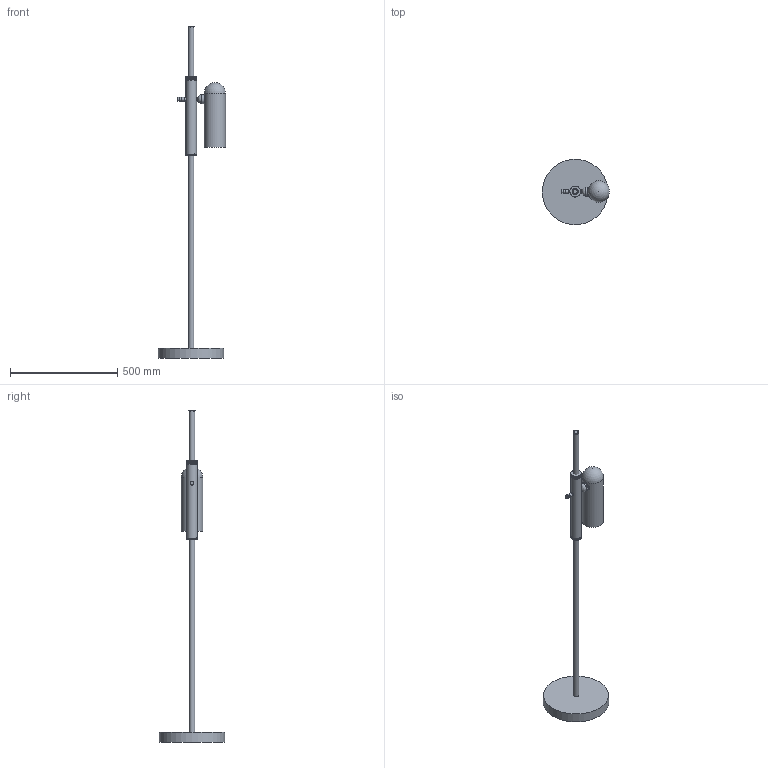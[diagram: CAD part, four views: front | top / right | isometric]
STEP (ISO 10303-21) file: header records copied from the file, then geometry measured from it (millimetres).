
FILE_DESCRIPTION(/* description */ (''),/* implementation_level */ '2;1');
FILE_NAME(/* name */ 'T:\B191 Odyssey Single Floor Lamp\Pliki bryłowe handlowe\B191 Odyssey 1 3D files_na stronę\B191 Odyssey 1.stp',/* time_stamp */ '2022-02-02T15:05:18+01:00',/* author */ ('Mariusz Awariusz'),/* organization */ (''),/* preprocessor_version */ 'ST-DEVELOPER v18.1',/* originating_system */ 'Autodesk Inventor 2022',/* authorisation */ '');
FILE_SCHEMA (('AUTOMOTIVE_DESIGN { 1 0 10303 214 3 1 1 }'));
Length unit declared in the file: millimetre
Products named in the file (1): Odyssey Single Floor Lamp 1 CE v4_na potrzeby plików 3D_jako część_
korpusy bryłowe
Bounding box: 312.56 x 305 x 1546 mm (x, y, z)
Volume: 7066858.1 mm3; surface area: 503079.8 mm2
Topology: 15 solids, 15 shells, 89 faces, 137 edges, 87 vertices
Faces by surface type: plane 37, cylinder 30, cone 17, bspline 3, sphere 1, torus 1
Full cylindrical faces by diameter (mm): 10 x1, 15.2 x1, 17 x4, 20 x1, 22 x1, 25 x1, 28 x1, 36 x1, 37 x1, 38 x2, 40 x1, 42 x1, 44 x2, 46 x3, 48 x1, 50 x4, 100 x1, 305 x1
Entity records: 3457 total; most frequent: CARTESIAN_POINT 1762, DIRECTION 384, ORIENTED_EDGE 272, AXIS2_PLACEMENT_3D 169, EDGE_CURVE 136, EDGE_LOOP 101, FACE_OUTER_BOUND 89, ADVANCED_FACE 89
